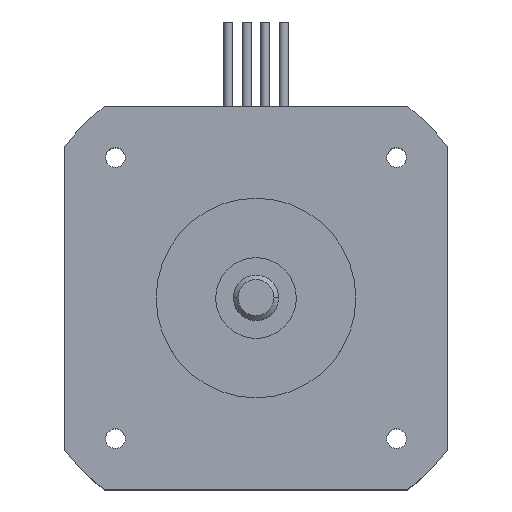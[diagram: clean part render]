
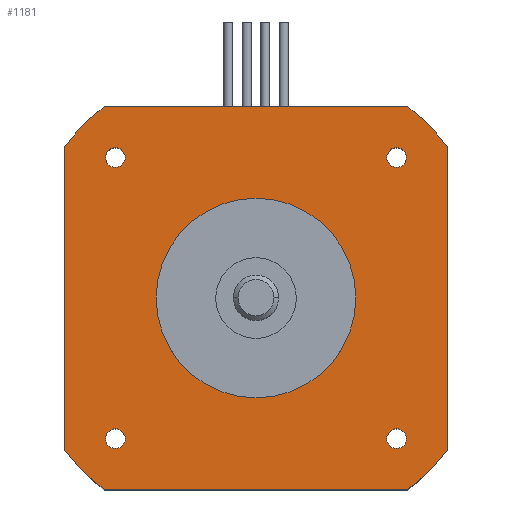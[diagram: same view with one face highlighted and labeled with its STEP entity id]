
A CAD part, top view. The second image highlights one B-rep face of the part: STEP entity #1181.
In plain terms, the highlighted planar face has unit normal (0, 0, 1).
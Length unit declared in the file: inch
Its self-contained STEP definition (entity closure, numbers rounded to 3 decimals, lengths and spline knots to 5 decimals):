
#99=CARTESIAN_POINT('',(-0.653,0.61,1.57));
#100=VERTEX_POINT('',#99);
#116=CARTESIAN_POINT('',(-0.567,0.61,1.57));
#117=VERTEX_POINT('',#116);
#124=CARTESIAN_POINT('',(-0.61,0.61,1.57));
#125=DIRECTION('',(0.0,0.0,-1.0));
#126=DIRECTION('',(-1.0,0.0,0.0));
#127=AXIS2_PLACEMENT_3D('',#124,#125,#126);
#128=CIRCLE('',#127,0.043);
#129=EDGE_CURVE('',#100,#117,#128,.T.);
#141=CARTESIAN_POINT('',(0.61,0.653,1.57));
#142=VERTEX_POINT('',#141);
#158=CARTESIAN_POINT('',(0.61,0.567,1.57));
#159=VERTEX_POINT('',#158);
#166=CARTESIAN_POINT('',(0.61,0.61,1.57));
#167=DIRECTION('',(0.0,0.0,-1.0));
#168=DIRECTION('',(0.0,1.0,0.0));
#169=AXIS2_PLACEMENT_3D('',#166,#167,#168);
#170=CIRCLE('',#169,0.043);
#171=EDGE_CURVE('',#142,#159,#170,.T.);
#183=CARTESIAN_POINT('',(-0.61,-0.653,1.57));
#184=VERTEX_POINT('',#183);
#200=CARTESIAN_POINT('',(-0.61,-0.567,1.57));
#201=VERTEX_POINT('',#200);
#208=CARTESIAN_POINT('',(-0.61,-0.61,1.57));
#209=DIRECTION('',(0.0,0.0,-1.0));
#210=DIRECTION('',(0.0,-1.0,0.0));
#211=AXIS2_PLACEMENT_3D('',#208,#209,#210);
#212=CIRCLE('',#211,0.043);
#213=EDGE_CURVE('',#184,#201,#212,.T.);
#225=CARTESIAN_POINT('',(0.653,-0.61,1.57));
#226=VERTEX_POINT('',#225);
#242=CARTESIAN_POINT('',(0.567,-0.61,1.57));
#243=VERTEX_POINT('',#242);
#250=CARTESIAN_POINT('',(0.61,-0.61,1.57));
#251=DIRECTION('',(0.0,0.0,-1.0));
#252=DIRECTION('',(1.0,0.0,0.0));
#253=AXIS2_PLACEMENT_3D('',#250,#251,#252);
#254=CIRCLE('',#253,0.043);
#255=EDGE_CURVE('',#226,#243,#254,.T.);
#265=CARTESIAN_POINT('',(-0.433,0.,1.57));
#266=VERTEX_POINT('',#265);
#275=CARTESIAN_POINT('',(0.433,0.,1.57));
#276=VERTEX_POINT('',#275);
#277=CARTESIAN_POINT('',(0.0,0.0,1.57));
#278=DIRECTION('',(0.0,0.0,-1.0));
#279=DIRECTION('',(-1.0,0.0,0.0));
#280=AXIS2_PLACEMENT_3D('',#277,#278,#279);
#281=CIRCLE('',#280,0.433);
#282=EDGE_CURVE('',#276,#266,#281,.T.);
#779=CARTESIAN_POINT('',(-0.83,0.65932,1.57));
#780=VERTEX_POINT('',#779);
#789=CARTESIAN_POINT('',(-0.65932,0.83,1.57));
#790=VERTEX_POINT('',#789);
#791=CARTESIAN_POINT('',(0.0,0.0,1.57));
#792=DIRECTION('',(0.0,0.0,1.0));
#793=DIRECTION('',(1.0,0.0,0.0));
#794=AXIS2_PLACEMENT_3D('',#791,#792,#793);
#795=CIRCLE('',#794,1.06);
#796=EDGE_CURVE('',#790,#780,#795,.T.);
#821=CARTESIAN_POINT('',(0.65932,0.83,1.57));
#822=VERTEX_POINT('',#821);
#831=CARTESIAN_POINT('',(0.83,0.65932,1.57));
#832=VERTEX_POINT('',#831);
#833=CARTESIAN_POINT('',(0.0,0.0,1.57));
#834=DIRECTION('',(0.0,0.0,1.0));
#835=DIRECTION('',(1.0,0.0,0.0));
#836=AXIS2_PLACEMENT_3D('',#833,#834,#835);
#837=CIRCLE('',#836,1.06);
#838=EDGE_CURVE('',#832,#822,#837,.T.);
#863=CARTESIAN_POINT('',(0.83,-0.65932,1.57));
#864=VERTEX_POINT('',#863);
#873=CARTESIAN_POINT('',(0.65932,-0.83,1.57));
#874=VERTEX_POINT('',#873);
#875=CARTESIAN_POINT('',(0.0,0.0,1.57));
#876=DIRECTION('',(0.0,0.0,1.0));
#877=DIRECTION('',(1.0,0.0,0.0));
#878=AXIS2_PLACEMENT_3D('',#875,#876,#877);
#879=CIRCLE('',#878,1.06);
#880=EDGE_CURVE('',#874,#864,#879,.T.);
#905=CARTESIAN_POINT('',(-0.65932,-0.83,1.57));
#906=VERTEX_POINT('',#905);
#915=CARTESIAN_POINT('',(-0.83,-0.65932,1.57));
#916=VERTEX_POINT('',#915);
#917=CARTESIAN_POINT('',(0.0,0.0,1.57));
#918=DIRECTION('',(0.0,0.0,1.0));
#919=DIRECTION('',(1.0,0.0,0.0));
#920=AXIS2_PLACEMENT_3D('',#917,#918,#919);
#921=CIRCLE('',#920,1.06);
#922=EDGE_CURVE('',#916,#906,#921,.T.);
#1034=CARTESIAN_POINT('',(-0.83,0.65932,1.57));
#1035=DIRECTION('',(0.0,-1.0,0.0));
#1036=VECTOR('',#1035,1.31864);
#1037=LINE('',#1034,#1036);
#1038=EDGE_CURVE('',#780,#916,#1037,.T.);
#1083=CARTESIAN_POINT('',(0.0,0.0,1.57));
#1084=DIRECTION('',(0.0,0.0,-1.0));
#1085=DIRECTION('',(-1.0,0.0,0.0));
#1086=AXIS2_PLACEMENT_3D('',#1083,#1084,#1085);
#1087=CIRCLE('',#1086,0.433);
#1088=EDGE_CURVE('',#266,#276,#1087,.T.);
#1107=CARTESIAN_POINT('',(0.0,0.0,1.57));
#1108=DIRECTION('',(0.0,0.0,1.0));
#1109=DIRECTION('',(1.0,0.0,0.0));
#1110=AXIS2_PLACEMENT_3D('',#1107,#1108,#1109);
#1111=PLANE('',#1110);
#1112=ORIENTED_EDGE('',*,*,#922,.T.);
#1113=CARTESIAN_POINT('',(-0.65932,-0.83,1.57));
#1114=DIRECTION('',(1.0,0.0,0.0));
#1115=VECTOR('',#1114,1.31864);
#1116=LINE('',#1113,#1115);
#1117=EDGE_CURVE('',#906,#874,#1116,.T.);
#1118=ORIENTED_EDGE('',*,*,#1117,.T.);
#1119=ORIENTED_EDGE('',*,*,#880,.T.);
#1120=CARTESIAN_POINT('',(0.83,-0.65932,1.57));
#1121=DIRECTION('',(0.0,1.0,0.0));
#1122=VECTOR('',#1121,1.31864);
#1123=LINE('',#1120,#1122);
#1124=EDGE_CURVE('',#864,#832,#1123,.T.);
#1125=ORIENTED_EDGE('',*,*,#1124,.T.);
#1126=ORIENTED_EDGE('',*,*,#838,.T.);
#1127=CARTESIAN_POINT('',(0.65932,0.83,1.57));
#1128=DIRECTION('',(-1.0,0.0,0.0));
#1129=VECTOR('',#1128,1.31864);
#1130=LINE('',#1127,#1129);
#1131=EDGE_CURVE('',#822,#790,#1130,.T.);
#1132=ORIENTED_EDGE('',*,*,#1131,.T.);
#1133=ORIENTED_EDGE('',*,*,#796,.T.);
#1134=ORIENTED_EDGE('',*,*,#1038,.T.);
#1135=EDGE_LOOP('',(#1112,#1118,#1119,#1125,#1126,#1132,#1133,#1134));
#1136=FACE_OUTER_BOUND('',#1135,.T.);
#1137=CARTESIAN_POINT('',(-0.61,0.61,1.57));
#1138=DIRECTION('',(0.0,0.0,-1.0));
#1139=DIRECTION('',(-1.0,0.0,0.0));
#1140=AXIS2_PLACEMENT_3D('',#1137,#1138,#1139);
#1141=CIRCLE('',#1140,0.043);
#1142=EDGE_CURVE('',#117,#100,#1141,.T.);
#1143=ORIENTED_EDGE('',*,*,#1142,.T.);
#1144=ORIENTED_EDGE('',*,*,#129,.T.);
#1145=EDGE_LOOP('',(#1143,#1144));
#1146=FACE_BOUND('',#1145,.T.);
#1147=CARTESIAN_POINT('',(0.61,0.61,1.57));
#1148=DIRECTION('',(0.0,0.0,-1.0));
#1149=DIRECTION('',(0.0,1.0,0.0));
#1150=AXIS2_PLACEMENT_3D('',#1147,#1148,#1149);
#1151=CIRCLE('',#1150,0.043);
#1152=EDGE_CURVE('',#159,#142,#1151,.T.);
#1153=ORIENTED_EDGE('',*,*,#1152,.T.);
#1154=ORIENTED_EDGE('',*,*,#171,.T.);
#1155=EDGE_LOOP('',(#1153,#1154));
#1156=FACE_BOUND('',#1155,.T.);
#1157=CARTESIAN_POINT('',(-0.61,-0.61,1.57));
#1158=DIRECTION('',(0.0,0.0,-1.0));
#1159=DIRECTION('',(0.0,-1.0,0.0));
#1160=AXIS2_PLACEMENT_3D('',#1157,#1158,#1159);
#1161=CIRCLE('',#1160,0.043);
#1162=EDGE_CURVE('',#201,#184,#1161,.T.);
#1163=ORIENTED_EDGE('',*,*,#1162,.T.);
#1164=ORIENTED_EDGE('',*,*,#213,.T.);
#1165=EDGE_LOOP('',(#1163,#1164));
#1166=FACE_BOUND('',#1165,.T.);
#1167=CARTESIAN_POINT('',(0.61,-0.61,1.57));
#1168=DIRECTION('',(0.0,0.0,-1.0));
#1169=DIRECTION('',(1.0,0.0,0.0));
#1170=AXIS2_PLACEMENT_3D('',#1167,#1168,#1169);
#1171=CIRCLE('',#1170,0.043);
#1172=EDGE_CURVE('',#243,#226,#1171,.T.);
#1173=ORIENTED_EDGE('',*,*,#1172,.T.);
#1174=ORIENTED_EDGE('',*,*,#255,.T.);
#1175=EDGE_LOOP('',(#1173,#1174));
#1176=FACE_BOUND('',#1175,.T.);
#1177=ORIENTED_EDGE('',*,*,#282,.T.);
#1178=ORIENTED_EDGE('',*,*,#1088,.T.);
#1179=EDGE_LOOP('',(#1177,#1178));
#1180=FACE_BOUND('',#1179,.T.);
#1181=ADVANCED_FACE('',(#1136,#1146,#1156,#1166,#1176,#1180),#1111,.T.);
